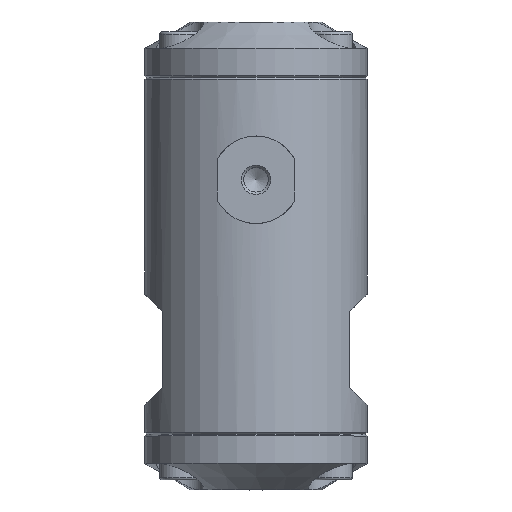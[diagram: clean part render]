
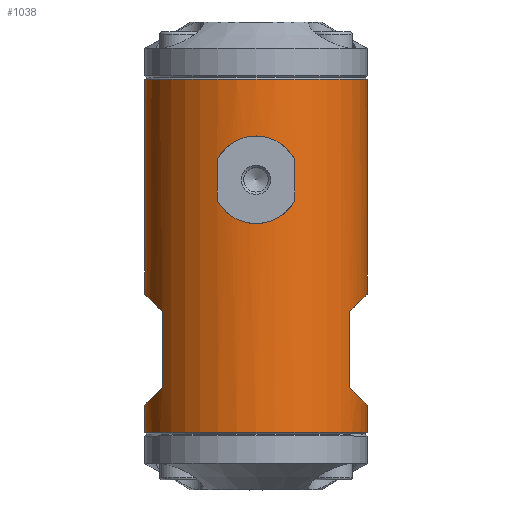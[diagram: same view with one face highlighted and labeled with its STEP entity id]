
A CAD part, top view. The second image highlights one B-rep face of the part: STEP entity #1038.
In plain terms, the highlighted cylindrical face has radius 19 mm (diameter 38 mm), a full revolution.
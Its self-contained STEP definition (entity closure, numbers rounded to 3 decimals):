
#29=ELLIPSE('',#3420,26.87,19.);
#30=ELLIPSE('',#3421,26.87,19.);
#31=ELLIPSE('',#3422,26.87,19.);
#32=ELLIPSE('',#3423,26.87,19.);
#51=LINE('',#5032,#169);
#52=LINE('',#5037,#170);
#53=LINE('',#5040,#171);
#54=LINE('',#5045,#172);
#55=LINE('',#5060,#173);
#56=LINE('',#5073,#174);
#169=VECTOR('',#3997,1.);
#170=VECTOR('',#4000,1.);
#171=VECTOR('',#4003,1.);
#172=VECTOR('',#4006,1.);
#173=VECTOR('',#4009,1.);
#174=VECTOR('',#4010,1.);
#574=CYLINDRICAL_SURFACE('',#3424,19.);
#711=FACE_BOUND('',#1436,.T.);
#712=FACE_BOUND('',#1437,.T.);
#713=FACE_BOUND('',#1438,.T.);
#714=FACE_BOUND('',#1439,.T.);
#715=FACE_BOUND('',#1440,.T.);
#1038=ADVANCED_FACE('',(#711,#712,#713,#714,#715),#574,.T.);
#1436=EDGE_LOOP('',(#1913));
#1437=EDGE_LOOP('',(#1914));
#1438=EDGE_LOOP('',(#1915,#1916,#1917,#1918));
#1439=EDGE_LOOP('',(#1919,#1920,#1921,#1922));
#1440=EDGE_LOOP('',(#1923,#1924,#1925,#1926));
#1913=ORIENTED_EDGE('',*,*,#2786,.F.);
#1914=ORIENTED_EDGE('',*,*,#2787,.T.);
#1915=ORIENTED_EDGE('',*,*,#2788,.F.);
#1916=ORIENTED_EDGE('',*,*,#2789,.F.);
#1917=ORIENTED_EDGE('',*,*,#2790,.F.);
#1918=ORIENTED_EDGE('',*,*,#2791,.F.);
#1919=ORIENTED_EDGE('',*,*,#2792,.F.);
#1920=ORIENTED_EDGE('',*,*,#2793,.F.);
#1921=ORIENTED_EDGE('',*,*,#2794,.F.);
#1922=ORIENTED_EDGE('',*,*,#2795,.F.);
#1923=ORIENTED_EDGE('',*,*,#2796,.T.);
#1924=ORIENTED_EDGE('',*,*,#2797,.T.);
#1925=ORIENTED_EDGE('',*,*,#2798,.T.);
#1926=ORIENTED_EDGE('',*,*,#2799,.T.);
#2491=VERTEX_POINT('',#5029);
#2492=VERTEX_POINT('',#5031);
#2493=VERTEX_POINT('',#5033);
#2494=VERTEX_POINT('',#5034);
#2495=VERTEX_POINT('',#5036);
#2496=VERTEX_POINT('',#5038);
#2497=VERTEX_POINT('',#5041);
#2498=VERTEX_POINT('',#5042);
#2499=VERTEX_POINT('',#5044);
#2500=VERTEX_POINT('',#5046);
#2501=VERTEX_POINT('',#5058);
#2502=VERTEX_POINT('',#5059);
#2503=VERTEX_POINT('',#5061);
#2504=VERTEX_POINT('',#5072);
#2786=EDGE_CURVE('',#2491,#2491,#3165,.T.);
#2787=EDGE_CURVE('',#2492,#2492,#3166,.T.);
#2788=EDGE_CURVE('',#2493,#2494,#51,.T.);
#2789=EDGE_CURVE('',#2495,#2493,#29,.T.);
#2790=EDGE_CURVE('',#2496,#2495,#52,.T.);
#2791=EDGE_CURVE('',#2494,#2496,#30,.T.);
#2792=EDGE_CURVE('',#2497,#2498,#53,.T.);
#2793=EDGE_CURVE('',#2499,#2497,#31,.T.);
#2794=EDGE_CURVE('',#2500,#2499,#54,.T.);
#2795=EDGE_CURVE('',#2498,#2500,#32,.T.);
#2796=EDGE_CURVE('',#2501,#2502,#3052,.T.);
#2797=EDGE_CURVE('',#2502,#2503,#55,.T.);
#2798=EDGE_CURVE('',#2503,#2504,#3053,.T.);
#2799=EDGE_CURVE('',#2504,#2501,#56,.T.);
#3052=B_SPLINE_CURVE_WITH_KNOTS('',3,(#5048,#5049,#5050,#5051,#5052,#5053,
#5054,#5055,#5056,#5057),.UNSPECIFIED.,.F.,.F.,(4,2,2,2,4),(0.,0.25,0.5,
0.75,1.),.UNSPECIFIED.);
#3053=B_SPLINE_CURVE_WITH_KNOTS('',3,(#5062,#5063,#5064,#5065,#5066,#5067,
#5068,#5069,#5070,#5071),.UNSPECIFIED.,.F.,.F.,(4,2,2,2,4),(0.,0.25,0.5,
0.75,1.),.UNSPECIFIED.);
#3165=CIRCLE('',#3418,19.);
#3166=CIRCLE('',#3419,19.);
#3418=AXIS2_PLACEMENT_3D('',#5028,#3993,#3994);
#3419=AXIS2_PLACEMENT_3D('',#5030,#3995,#3996);
#3420=AXIS2_PLACEMENT_3D('',#5035,#3998,#3999);
#3421=AXIS2_PLACEMENT_3D('',#5039,#4001,#4002);
#3422=AXIS2_PLACEMENT_3D('',#5043,#4004,#4005);
#3423=AXIS2_PLACEMENT_3D('',#5047,#4007,#4008);
#3424=AXIS2_PLACEMENT_3D('',#5074,#4011,#4012);
#3993=DIRECTION('',(0.,-1.,0.));
#3994=DIRECTION('',(0.,0.,1.));
#3995=DIRECTION('',(0.,-1.,0.));
#3996=DIRECTION('',(0.,0.,1.));
#3997=DIRECTION('',(0.,-1.,0.));
#3998=DIRECTION('',(0.707,-0.707,0.));
#3999=DIRECTION('',(0.707,0.707,0.));
#4000=DIRECTION('',(0.,1.,0.));
#4001=DIRECTION('',(0.707,0.707,0.));
#4002=DIRECTION('',(-0.707,0.707,0.));
#4003=DIRECTION('',(0.,-1.,0.));
#4004=DIRECTION('',(-0.707,-0.707,0.));
#4005=DIRECTION('',(-0.707,0.707,0.));
#4006=DIRECTION('',(0.,1.,0.));
#4007=DIRECTION('',(-0.707,0.707,0.));
#4008=DIRECTION('',(0.707,0.707,0.));
#4009=DIRECTION('',(0.,-1.,0.));
#4010=DIRECTION('',(0.,1.,0.));
#4011=DIRECTION('',(0.,1.,0.));
#4012=DIRECTION('',(0.,0.,1.));
#5028=CARTESIAN_POINT('',(0.,-30.2,0.));
#5029=CARTESIAN_POINT('',(0.,-30.2,19.));
#5030=CARTESIAN_POINT('',(0.,30.2,0.));
#5031=CARTESIAN_POINT('',(0.,30.2,19.));
#5032=CARTESIAN_POINT('',(16.,0.,10.247));
#5033=CARTESIAN_POINT('',(16.,-9.5,10.247));
#5034=CARTESIAN_POINT('',(16.,-22.5,10.247));
#5035=CARTESIAN_POINT('',(0.,-25.5,0.));
#5036=CARTESIAN_POINT('',(16.,-9.5,-10.247));
#5037=CARTESIAN_POINT('',(16.,0.,-10.247));
#5038=CARTESIAN_POINT('',(16.,-22.5,-10.247));
#5039=CARTESIAN_POINT('',(0.,-6.5,0.));
#5040=CARTESIAN_POINT('',(-16.,0.,-10.247));
#5041=CARTESIAN_POINT('',(-16.,-9.5,-10.247));
#5042=CARTESIAN_POINT('',(-16.,-22.5,-10.247));
#5043=CARTESIAN_POINT('',(0.,-25.5,0.));
#5044=CARTESIAN_POINT('',(-16.,-9.5,10.247));
#5045=CARTESIAN_POINT('',(-16.,0.,10.247));
#5046=CARTESIAN_POINT('',(-16.,-22.5,10.247));
#5047=CARTESIAN_POINT('',(0.,-6.5,0.));
#5048=CARTESIAN_POINT('',(-6.645,16.477,17.8));
#5049=CARTESIAN_POINT('',(-6.01,17.691,18.037));
#5050=CARTESIAN_POINT('',(-5.061,18.697,18.351));
#5051=CARTESIAN_POINT('',(-2.76,20.103,18.835));
#5052=CARTESIAN_POINT('',(-1.386,20.499,18.999));
#5053=CARTESIAN_POINT('',(1.372,20.501,19.001));
#5054=CARTESIAN_POINT('',(2.733,20.116,18.84));
#5055=CARTESIAN_POINT('',(5.062,18.699,18.352));
#5056=CARTESIAN_POINT('',(6.01,17.691,18.037));
#5057=CARTESIAN_POINT('',(6.645,16.477,17.8));
#5058=CARTESIAN_POINT('',(-6.645,16.477,17.8));
#5059=CARTESIAN_POINT('',(6.645,16.477,17.8));
#5060=CARTESIAN_POINT('',(6.645,0.,17.8));
#5061=CARTESIAN_POINT('',(6.645,9.523,17.8));
#5062=CARTESIAN_POINT('',(6.645,9.523,17.8));
#5063=CARTESIAN_POINT('',(6.01,8.309,18.037));
#5064=CARTESIAN_POINT('',(5.061,7.303,18.351));
#5065=CARTESIAN_POINT('',(2.76,5.897,18.835));
#5066=CARTESIAN_POINT('',(1.386,5.501,18.999));
#5067=CARTESIAN_POINT('',(-1.372,5.499,19.001));
#5068=CARTESIAN_POINT('',(-2.733,5.884,18.84));
#5069=CARTESIAN_POINT('',(-5.062,7.301,18.352));
#5070=CARTESIAN_POINT('',(-6.01,8.309,18.037));
#5071=CARTESIAN_POINT('',(-6.645,9.523,17.8));
#5072=CARTESIAN_POINT('',(-6.645,9.523,17.8));
#5073=CARTESIAN_POINT('',(-6.645,0.,17.8));
#5074=CARTESIAN_POINT('',(0.,0.,0.));
